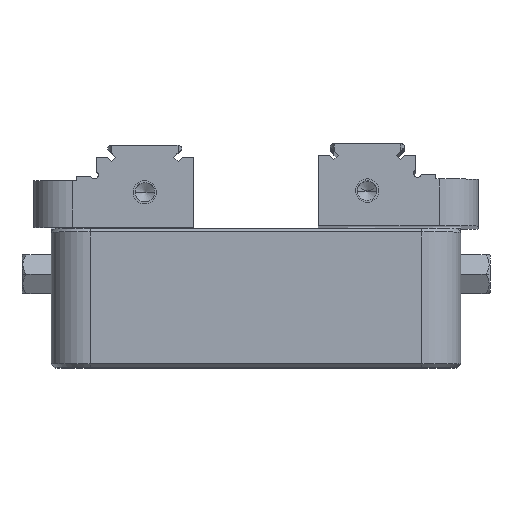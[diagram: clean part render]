
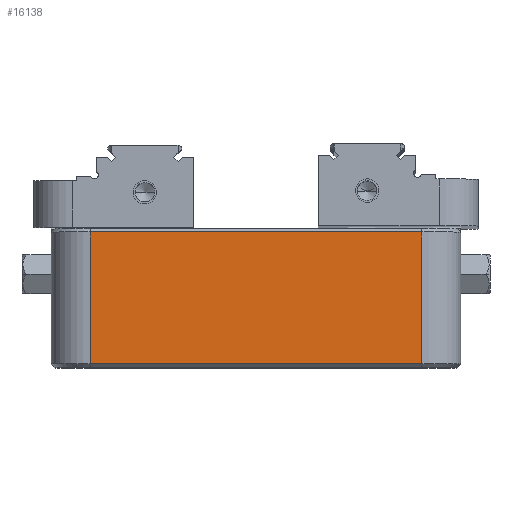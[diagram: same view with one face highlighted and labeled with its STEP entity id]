
A CAD part, top view. The second image highlights one B-rep face of the part: STEP entity #16138.
In plain terms, the highlighted planar face has unit normal (0, 0, 1) as drawn and (0, -1, 0) by its records, which use the part's own axes.
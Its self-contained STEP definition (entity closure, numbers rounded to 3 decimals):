
#3886=DIRECTION('',(0.,0.,-1.));
#3887=VECTOR('',#3886,33.8);
#3888=CARTESIAN_POINT('',(42.5,-40.,16.3));
#3889=LINE('',#3888,#3887);
#3966=DIRECTION('',(1.,0.,0.));
#3967=VECTOR('',#3966,85.);
#3968=CARTESIAN_POINT('',(-42.5,-40.,-17.5));
#3969=LINE('',#3968,#3967);
#3970=DIRECTION('',(0.,0.,1.));
#3971=VECTOR('',#3970,33.8);
#3972=CARTESIAN_POINT('',(-42.5,-40.,-17.5));
#3973=LINE('',#3972,#3971);
#3991=DIRECTION('',(1.,0.,0.));
#3992=VECTOR('',#3991,85.);
#3993=CARTESIAN_POINT('',(-42.5,-40.,16.3));
#3994=LINE('',#3993,#3992);
#8943=CARTESIAN_POINT('',(42.5,-40.,-17.5));
#8944=VERTEX_POINT('',#8943);
#8945=CARTESIAN_POINT('',(-42.5,-40.,-17.5));
#8946=VERTEX_POINT('',#8945);
#9487=CARTESIAN_POINT('',(-42.5,-40.,16.3));
#9488=VERTEX_POINT('',#9487);
#9499=CARTESIAN_POINT('',(42.5,-40.,16.3));
#9500=VERTEX_POINT('',#9499);
#16125=CARTESIAN_POINT('',(-52.5,-40.,-17.5));
#16126=DIRECTION('',(0.,-1.,0.));
#16127=DIRECTION('',(1.,0.,0.));
#16128=AXIS2_PLACEMENT_3D('',#16125,#16126,#16127);
#16129=PLANE('',#16128);
#16130=ORIENTED_EDGE('',*,*,#16010,.T.);
#16131=ORIENTED_EDGE('',*,*,#16120,.F.);
#16133=ORIENTED_EDGE('',*,*,#16132,.T.);
#16135=ORIENTED_EDGE('',*,*,#16134,.T.);
#16136=EDGE_LOOP('',(#16130,#16131,#16133,#16135));
#16137=FACE_OUTER_BOUND('',#16136,.F.);
#16138=ADVANCED_FACE('',(#16137),#16129,.T.);
#16010=EDGE_CURVE('',#9500,#8944,#3889,.T.);
#16120=EDGE_CURVE('',#8946,#8944,#3969,.T.);
#16132=EDGE_CURVE('',#8946,#9488,#3973,.T.);
#16134=EDGE_CURVE('',#9488,#9500,#3994,.T.);
